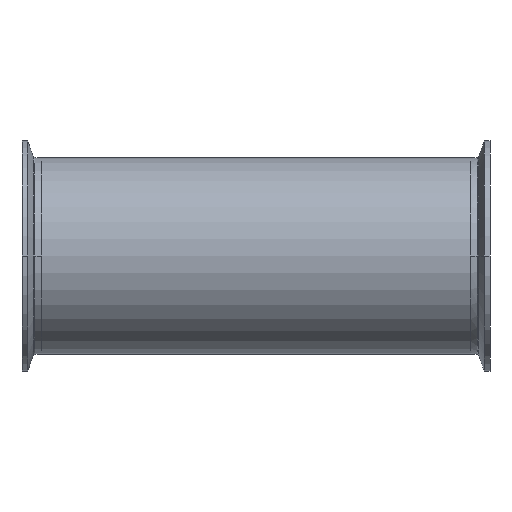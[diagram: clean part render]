
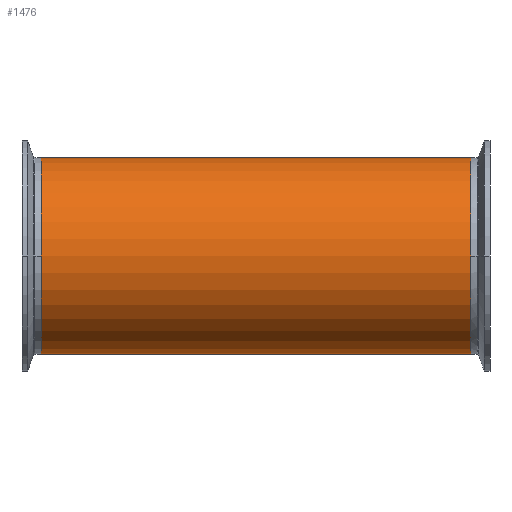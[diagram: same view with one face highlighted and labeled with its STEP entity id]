
A CAD part, front view. The second image highlights one B-rep face of the part: STEP entity #1476.
In plain terms, the highlighted cylindrical face has radius 50.8 mm (diameter 101.6 mm), a partial arc.
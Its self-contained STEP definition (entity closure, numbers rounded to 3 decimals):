
#282 = EDGE_CURVE ( 'NONE', #2049, #3084, #1472, .T. ) ;
#366 = DIRECTION ( 'NONE',  ( -1., 0., 0. ) ) ;
#516 = ORIENTED_EDGE ( 'NONE', *, *, #4848, .T. ) ;
#531 = CARTESIAN_POINT ( 'NONE',  ( -110.7, 0., 50.8 ) ) ;
#627 = CARTESIAN_POINT ( 'NONE',  ( -110.7, 0., -50.8 ) ) ;
#805 = CIRCLE ( 'NONE', #2672, 50.8 ) ;
#984 = VECTOR ( 'NONE', #366, 1000. ) ;
#1021 = EDGE_CURVE ( 'NONE', #1468, #2938, #1463, .T. ) ;
#1027 = DIRECTION ( 'NONE',  ( 1., 0., 0. ) ) ;
#1388 = CARTESIAN_POINT ( 'NONE',  ( 254.384, 0., 0. ) ) ;
#1463 = LINE ( 'NONE', #1541, #4374 ) ;
#1468 = VERTEX_POINT ( 'NONE', #3310 ) ;
#1472 = LINE ( 'NONE', #4190, #984 ) ;
#1476 = ADVANCED_FACE ( 'NONE', ( #2138 ), #3051, .T. ) ;
#1541 = CARTESIAN_POINT ( 'NONE',  ( 254.384, 0., 50.8 ) ) ;
#1707 = CIRCLE ( 'NONE', #3955, 50.8 ) ;
#1774 = CARTESIAN_POINT ( 'NONE',  ( 110.7, 0., -50.8 ) ) ;
#1786 = DIRECTION ( 'NONE',  ( -1., 0., 0. ) ) ;
#2049 = VERTEX_POINT ( 'NONE', #1774 ) ;
#2138 = FACE_OUTER_BOUND ( 'NONE', #2861, .T. ) ;
#2157 = DIRECTION ( 'NONE',  ( 0., 0., 1. ) ) ;
#2253 = CARTESIAN_POINT ( 'NONE',  ( 110.7, 0., 0. ) ) ;
#2296 = ORIENTED_EDGE ( 'NONE', *, *, #1021, .T. ) ;
#2647 = DIRECTION ( 'NONE',  ( 0., 0., 1. ) ) ;
#2672 = AXIS2_PLACEMENT_3D ( 'NONE', #3335, #1027, #3702 ) ;
#2861 = EDGE_LOOP ( 'NONE', ( #4357, #516, #2296, #3258 ) ) ;
#2938 = VERTEX_POINT ( 'NONE', #531 ) ;
#3051 = CYLINDRICAL_SURFACE ( 'NONE', #3365, 50.8 ) ;
#3084 = VERTEX_POINT ( 'NONE', #627 ) ;
#3258 = ORIENTED_EDGE ( 'NONE', *, *, #3490, .T. ) ;
#3310 = CARTESIAN_POINT ( 'NONE',  ( 110.7, 0., 50.8 ) ) ;
#3335 = CARTESIAN_POINT ( 'NONE',  ( -110.7, 0., 0. ) ) ;
#3365 = AXIS2_PLACEMENT_3D ( 'NONE', #1388, #1786, #2157 ) ;
#3490 = EDGE_CURVE ( 'NONE', #2938, #3084, #805, .T. ) ;
#3702 = DIRECTION ( 'NONE',  ( 0., 0., 1. ) ) ;
#3955 = AXIS2_PLACEMENT_3D ( 'NONE', #2253, #4888, #2647 ) ;
#4190 = CARTESIAN_POINT ( 'NONE',  ( 254.384, 0., -50.8 ) ) ;
#4197 = DIRECTION ( 'NONE',  ( -1., 0., 0. ) ) ;
#4357 = ORIENTED_EDGE ( 'NONE', *, *, #282, .F. ) ;
#4374 = VECTOR ( 'NONE', #4197, 1000. ) ;
#4848 = EDGE_CURVE ( 'NONE', #2049, #1468, #1707, .T. ) ;
#4888 = DIRECTION ( 'NONE',  ( -1., 0., 0. ) ) ;
